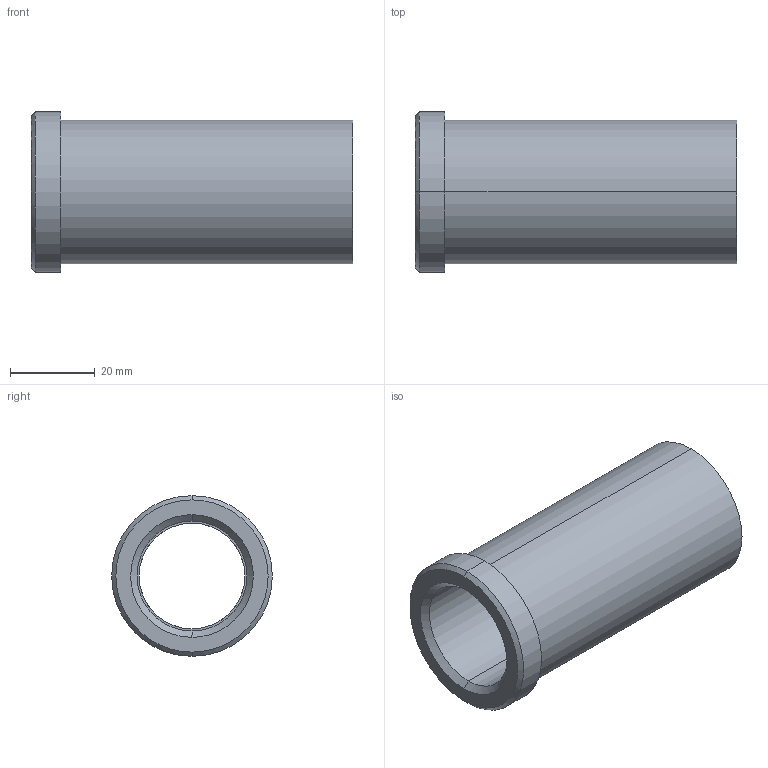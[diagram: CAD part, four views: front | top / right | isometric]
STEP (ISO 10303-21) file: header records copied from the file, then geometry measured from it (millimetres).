
FILE_DESCRIPTION(('CATIA V5 STEP Exchange'),'2;1');
FILE_NAME('C:\Users\Utente\Desktop\IO LAVORO\3D X SITO CF\X SITO\PLASTICA\353\353-25X76.stp','2021-05-12T18:43:07+00:00',('none'),('none'),'CATIA Version 5 Release 20 GA (IN-10)','CATIA V5 STEP AP203','none');
FILE_SCHEMA(('CONFIG_CONTROL_DESIGN'));
Length unit declared in the file: millimetre
Products named in the file (1): 353-25X76
Bounding box: 76 x 38 x 38 mm (x, y, z)
Volume: 32013.6 mm3; surface area: 15337.3 mm2
Topology: 1 solids, 1 shells, 18 faces, 58 edges, 44 vertices
Faces by surface type: cylinder 8, plane 4, cone 4, torus 2
Entity records: 840 total; most frequent: CARTESIAN_POINT 289, ORIENTED_EDGE 116, DIRECTION 82, EDGE_CURVE 58, AXIS2_PLACEMENT_3D 53, VERTEX_POINT 44, CIRCLE 34, EDGE_LOOP 22
